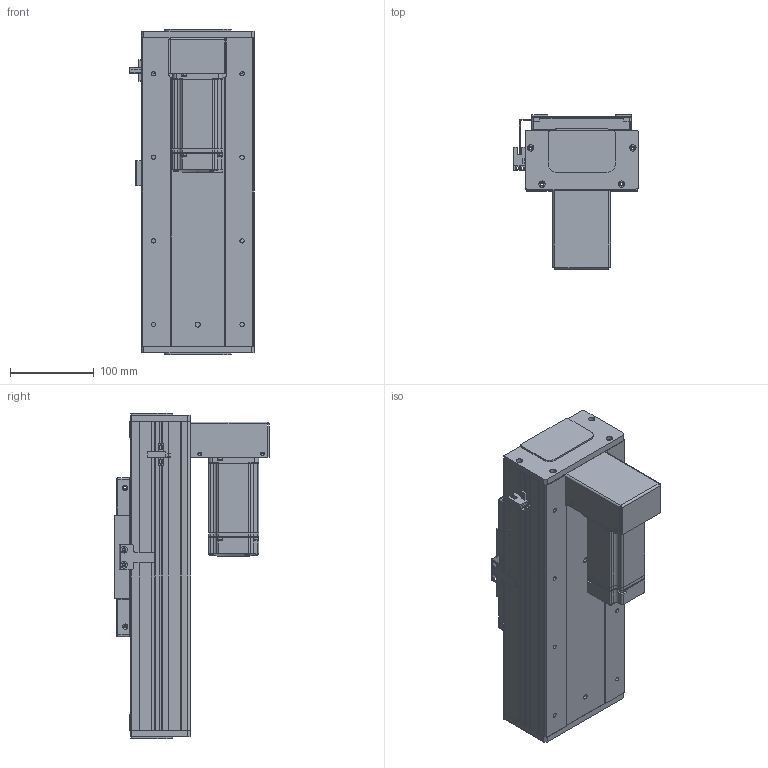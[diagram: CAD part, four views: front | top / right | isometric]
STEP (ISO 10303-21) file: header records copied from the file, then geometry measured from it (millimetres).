
FILE_DESCRIPTION (( 'STEP AP203' ), '1' );
FILE_NAME ('RY140F-L2020-300-BK.SLDASM_100.step', '2021-03-02T08:26:29', ( '盈信电脑' ), ( '东莞市道滘镇水果街19号' ), 'SwSTEP 2.0', 'SolidWorks 2012', '' );
FILE_SCHEMA (( 'CONFIG_CONTROL_DESIGN' ));
Length unit declared in the file: millimetre
Products named in the file (21): RY140F-直连型材铝滑块(16丝杆); 滅袉蝶18-10; RY140F-L2020-300-BK.SLDASM_100; RY140F-狟殏萇儂欶(400W); RY140F-狟殏萇儂啣(400W M5); RY140F-詩湍嘐隅輸; 侐源滅袉蝶; RY140F-詩湍揤え; RY140F-672覜茼んえ; 侂狟400W侜督萇儂; 覜茼ん672; RY100F-詩湍揤踡謫; 藻笠沭; 15; RY140F-后盖板(铝件）; RY140F-詩湍幗謫粣; RY140F-直连型材铝滑块连接座; RY140F-滅鳥奻裔; RY140F-300-BK倰第菁釱_100; RY140F-300-BK倰第奻裔啣_100; RY140F-300-BK蛌殏詩湍_100
Assembly tree (26 placements, depth 3):
  RY140F-L2020-300-BK.SLDASM_100
    RY140F-300-BK倰第菁釱_100
    RY140F-300-BK倰第奻裔啣_100  x2
    RY140F-300-BK蛌殏詩湍_100
    RY140F-直连型材铝滑块连接座
    RY140F-滅鳥奻裔
    RY140F-詩湍幗謫粣
    藻笠沭  x2
    RY100F-詩湍揤踡謫
    RY140F-后盖板(铝件）  x2
    侂狟400W侜督萇儂
      15
    覜茼ん672
    RY140F-672覜茼んえ
    RY140F-詩湍揤え  x2
    侐源滅袉蝶  x2
    RY140F-狟殏萇儂啣(400W M5)
    RY140F-狟殏萇儂欶(400W)
    RY140F-詩湍嘐隅輸
    滅袉蝶18-10  x2
    RY140F-直连型材铝滑块(16丝杆)
Bounding box: 148.7 x 184.5 x 389 mm (x, y, z)
Volume: 2154881.9 mm3; surface area: 745523.7 mm2
Topology: 25 solids, 25 shells, 1916 faces, 5256 edges, 3378 vertices
Faces by surface type: cylinder 915, plane 811, cone 164, bspline 22, torus 4
Entity records: 60644 total; most frequent: CARTESIAN_POINT 12889, DIRECTION 9575, ORIENTED_EDGE 9412, EDGE_CURVE 4706, AXIS2_PLACEMENT_3D 3392, VERTEX_POINT 3082, VECTOR 2791, LINE 2791
